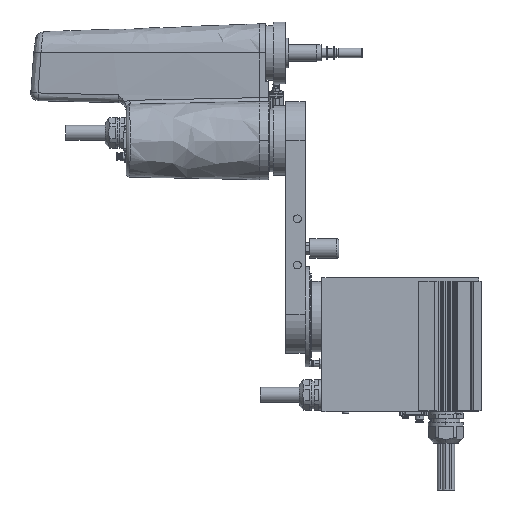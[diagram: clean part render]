
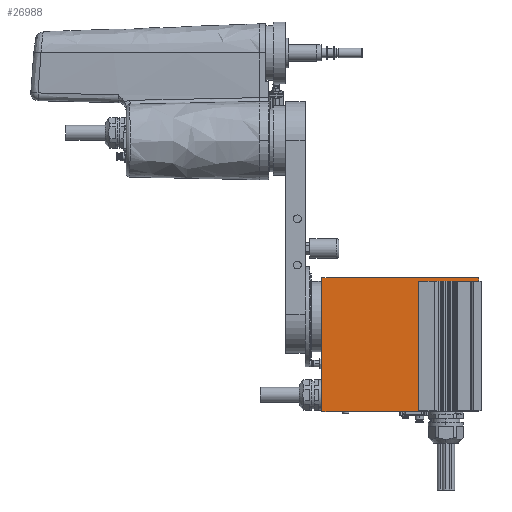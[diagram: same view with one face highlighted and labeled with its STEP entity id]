
A CAD part, left-side view. The second image highlights one B-rep face of the part: STEP entity #26988.
In plain terms, the highlighted planar face has unit normal (-1, 0, 0) as drawn and (1, 0, 0) by its records, which use the part's own axes.
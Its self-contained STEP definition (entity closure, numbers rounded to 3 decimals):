
#2050 = DIRECTION ( 'NONE',  ( 0., 1., 0. ) ) ;
#2051 = VECTOR ( 'NONE', #2050, 1000. ) ;
#2052 = CARTESIAN_POINT ( 'NONE',  ( 50., -121.6, 3. ) ) ;
#2053 = LINE ( 'NONE', #2052, #2051 ) ;
#2096 = CARTESIAN_POINT ( 'NONE',  ( 50., -121.6, 3. ) ) ;
#2131 = CARTESIAN_POINT ( 'NONE',  ( 50., -120., 3. ) ) ;
#2256 = CARTESIAN_POINT ( 'NONE',  ( 50., 45., 3. ) ) ;
#2257 = DIRECTION ( 'NONE',  ( 0., -1., 0. ) ) ;
#2258 = VECTOR ( 'NONE', #2257, 1000. ) ;
#2259 = CARTESIAN_POINT ( 'NONE',  ( 50., 50., 3. ) ) ;
#2260 = LINE ( 'NONE', #2259, #2258 ) ;
#2368 = CARTESIAN_POINT ( 'NONE',  ( 50., 50., 3. ) ) ;
#2521 = CARTESIAN_POINT ( 'NONE',  ( 50., -120., 80. ) ) ;
#2522 = DIRECTION ( 'NONE',  ( 0., 0., 1. ) ) ;
#2523 = VECTOR ( 'NONE', #2522, 1000. ) ;
#2524 = CARTESIAN_POINT ( 'NONE',  ( 50., -120., 3. ) ) ;
#2525 = LINE ( 'NONE', #2524, #2523 ) ;
#2844 = DIRECTION ( 'NONE',  ( 0., 0., -1. ) ) ;
#2845 = VECTOR ( 'NONE', #2844, 1000. ) ;
#2846 = CARTESIAN_POINT ( 'NONE',  ( 50., 50., 3. ) ) ;
#2847 = LINE ( 'NONE', #2846, #2845 ) ;
#2848 = DIRECTION ( 'NONE',  ( 0., -1., 0. ) ) ;
#2849 = DIRECTION ( 'NONE',  ( -1., 0., 0. ) ) ;
#2850 = CARTESIAN_POINT ( 'NONE',  ( 50., -121.6, 3. ) ) ;
#2851 = AXIS2_PLACEMENT_3D ( 'NONE', #2850, #2849, #2848 ) ;
#2852 = PLANE ( 'NONE',  #2851 ) ;
#2853 = FACE_OUTER_BOUND ( 'NONE', #26991, .T. ) ;
#2854 = DIRECTION ( 'NONE',  ( 0., 1., 0. ) ) ;
#2855 = VECTOR ( 'NONE', #2854, 1000. ) ;
#2856 = CARTESIAN_POINT ( 'NONE',  ( 50., -120., 80. ) ) ;
#2857 = LINE ( 'NONE', #2856, #2855 ) ;
#2929 = CARTESIAN_POINT ( 'NONE',  ( 50., 45., 80. ) ) ;
#2930 = DIRECTION ( 'NONE',  ( 0., 0., -1. ) ) ;
#2931 = VECTOR ( 'NONE', #2930, 1000. ) ;
#2932 = CARTESIAN_POINT ( 'NONE',  ( 50., 45., 3. ) ) ;
#2933 = LINE ( 'NONE', #2932, #2931 ) ;
#3194 = DIRECTION ( 'NONE',  ( 0., 0., 1. ) ) ;
#3195 = VECTOR ( 'NONE', #3194, 1000. ) ;
#3196 = CARTESIAN_POINT ( 'NONE',  ( 50., -121.6, 3. ) ) ;
#3197 = LINE ( 'NONE', #3196, #3195 ) ;
#3198 = CARTESIAN_POINT ( 'NONE',  ( 50., -121.6, 203.5 ) ) ;
#3199 = DIRECTION ( 'NONE',  ( 0., 1., 0. ) ) ;
#3200 = VECTOR ( 'NONE', #3199, 1000. ) ;
#3201 = CARTESIAN_POINT ( 'NONE',  ( 50., -120., 203.5 ) ) ;
#3202 = LINE ( 'NONE', #3201, #3200 ) ;
#3203 = CARTESIAN_POINT ( 'NONE',  ( 50., 50., 203.5 ) ) ;
#24989 = VERTEX_POINT ( 'NONE', #2096 ) ;
#25098 = EDGE_CURVE ( 'NONE', #24989, #25196, #2053, .T. ) ;
#25196 = VERTEX_POINT ( 'NONE', #2131 ) ;
#25391 = EDGE_CURVE ( 'NONE', #25513, #25393, #2260, .T. ) ;
#25393 = VERTEX_POINT ( 'NONE', #2256 ) ;
#25513 = VERTEX_POINT ( 'NONE', #2368 ) ;
#25997 = EDGE_CURVE ( 'NONE', #25196, #25999, #2525, .T. ) ;
#25999 = VERTEX_POINT ( 'NONE', #2521 ) ;
#26760 = EDGE_CURVE ( 'NONE', #26763, #25393, #2933, .T. ) ;
#26763 = VERTEX_POINT ( 'NONE', #2929 ) ;
#26981 = EDGE_CURVE ( 'NONE', #25999, #26763, #2857, .T. ) ;
#26988 = ADVANCED_FACE ( 'NONE', ( #2853 ), #2852, .F. ) ;
#26991 = EDGE_LOOP ( 'NONE', ( #26993, #26995, #26997, #26999, #27001, #27265, #27271, #27275 ) ) ;
#26993 = ORIENTED_EDGE ( 'NONE', *, *, #25997, .T. ) ;
#26995 = ORIENTED_EDGE ( 'NONE', *, *, #26981, .T. ) ;
#26997 = ORIENTED_EDGE ( 'NONE', *, *, #26760, .T. ) ;
#26999 = ORIENTED_EDGE ( 'NONE', *, *, #25391, .F. ) ;
#27001 = ORIENTED_EDGE ( 'NONE', *, *, #27003, .F. ) ;
#27003 = EDGE_CURVE ( 'NONE', #27263, #25513, #2847, .T. ) ;
#27263 = VERTEX_POINT ( 'NONE', #3203 ) ;
#27265 = ORIENTED_EDGE ( 'NONE', *, *, #27267, .F. ) ;
#27267 = EDGE_CURVE ( 'NONE', #27269, #27263, #3202, .T. ) ;
#27269 = VERTEX_POINT ( 'NONE', #3198 ) ;
#27271 = ORIENTED_EDGE ( 'NONE', *, *, #27273, .F. ) ;
#27273 = EDGE_CURVE ( 'NONE', #24989, #27269, #3197, .T. ) ;
#27275 = ORIENTED_EDGE ( 'NONE', *, *, #25098, .T. ) ;
